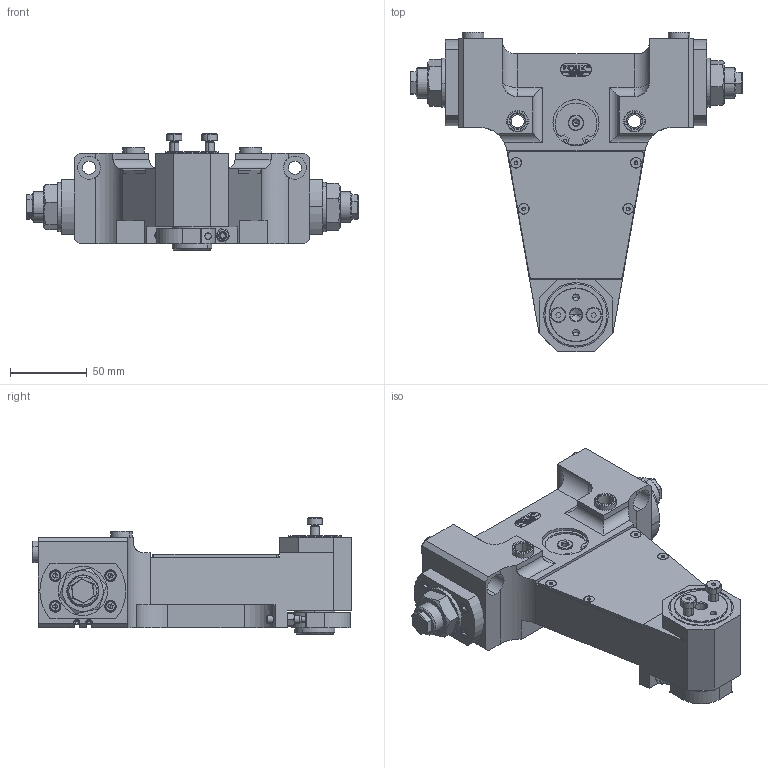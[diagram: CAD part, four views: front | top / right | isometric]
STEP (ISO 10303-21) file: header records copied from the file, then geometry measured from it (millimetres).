
FILE_DESCRIPTION (( 'STEP AP203' ), '1' );
FILE_NAME ('GS32-90¡ã-L.STEP', '2026-05-08T07:46:35', ( 'USER-' ), ( 'Microsoft' ), 'SwSTEP 2.0', 'SolidWorks 2018', '' );
FILE_SCHEMA (( 'CONFIG_CONTROL_DESIGN' ));
Length unit declared in the file: millimetre
Products named in the file (35): 20-15⑩概倰遣喳ん陔; YH2015-D-02 蚐猾諶裔; YH2015-BV-A1綴猾俋褲极; 内六角平端紧定螺钉[GBT77-2000][M5×5]_M5×5; GS32-04 葡裔唳; w_6200-2rs1-1; skf_bearing_hk_3516_2rs_2_01; XZ32-02 遣喳傷裔; GS40-08 第二齿轮轴20×1; deep groove ball bearings gb61800(Rolling bearings 61800 GB 276-94); w_6200-2rs1_03; GS32-90∼-L; 内六角沉头螺钉[GBT70_3-2008][M3×8×6]_M3×8×6; w_6200-2rs1_01; skf_bearing_hk_3516_2rs_2; 湍潛蹟邡6-12; YH2015-BV-A 郪磁褲极璃-1; hex nuts, style 1-grades ab gb(GB_FASTENER_NUT_SNAB1 M5-N); 棠羲換覜ん-1; circlips for hole--type b gb(GB_CONNECTING_PIECE_RINGS_CHB 30); GS32-10 90｡耨ｲﾏﾞﾎｻ; 蚐猾16-3; 20x8-R4-1; GS32-11 茞癹弇傷裔; ﾏ擎ﾗ14｡ﾁ10｡ﾁ8; gb 79-5x25; XZ32-01 褲极; GS32-06 第一齿轮轴20×1; hexagon socket head cap screws gb(GB_FASTENER_SCREWS_HSHCS M4X6-N); 囀蚐猾6-3; 20-15球阀型缓冲器新-1; YH2015-BV-A 郪磁褲极璃; 菜え20; OȦ; gb 53_m20
Assembly tree (51 placements, depth 4):
  YH2015-D-02 蚐猾諶裔
  GS32-90∼-L
    20-15⑩概倰遣喳ん陔
      YH2015-BV-A 郪磁褲极璃
        YH2015-BV-A1綴猾俋褲极
    20-15球阀型缓冲器新-1
      YH2015-BV-A 郪磁褲极璃-1
        YH2015-BV-A1綴猾俋褲极
    skf_bearing_hk_3516_2rs_2
      skf_bearing_hk_3516_2rs_2_01
    w_6200-2rs1-1
      w_6200-2rs1_01
      w_6200-2rs1_03
    XZ32-01 褲极
    XZ32-02 遣喳傷裔  x2
    gb 79-5x25  x2
    GS40-08 第二齿轮轴20×1
    GS32-10 90｡耨ｲﾏﾞﾎｻ
    GS32-11 茞癹弇傷裔
    GS32-04 葡裔唳
    hex nuts, style 1-grades ab gb(GB_FASTENER_NUT_SNAB1 M5-N)  x2
    hexagon socket head cap screws gb(GB_FASTENER_SCREWS_HSHCS M4X6-N)  x8
    circlips for hole--type b gb(GB_CONNECTING_PIECE_RINGS_CHB 30)
    20x8-R4-1
    棠羲換覜ん-1  x2
    GS32-06 第一齿轮轴20×1
    deep groove ball bearings gb61800(Rolling bearings 61800 GB 276-94)
    内六角沉头螺钉[GBT70_3-2008][M3×8×6]_M3×8×6  x4
    内六角平端紧定螺钉[GBT77-2000][M5×5]_M5×5
    gb 53_m20  x2
    菜え20  x2
    ﾏ擎ﾗ14｡ﾁ10｡ﾁ8  x4
    湍潛蹟邡6-12  x2
  蚐猾16-3
  囀蚐猾6-3
  OȦ
Bounding box: 216 x 208 x 75.5 mm (x, y, z)
Volume: 791782.2 mm3; surface area: 175000.7 mm2
Topology: 47 solids, 47 shells, 1794 faces, 4666 edges, 2947 vertices
Faces by surface type: plane 709, cylinder 470, cone 296, bspline 163, torus 114, sphere 42
Entity records: 53078 total; most frequent: CARTESIAN_POINT 17081, ORIENTED_EDGE 6892, DIRECTION 6257, EDGE_CURVE 3446, AXIS2_PLACEMENT_3D 2290, VERTEX_POINT 2242, VECTOR 1677, LINE 1677
